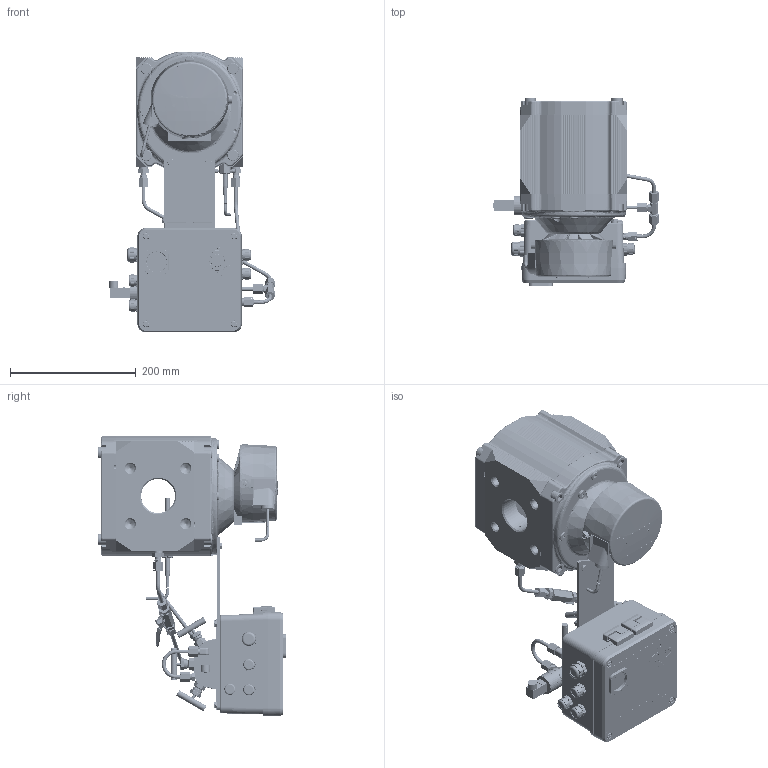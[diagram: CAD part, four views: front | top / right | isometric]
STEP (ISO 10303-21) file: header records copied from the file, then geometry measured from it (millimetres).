
FILE_DESCRIPTION(('STEP AP242'), '1');
FILE_NAME('ÑÃ-ÝÊÐ-Ð-100 ÐÂÃ-À c ÏÏÄ ïðàâûé', '', ('UNSPECIFIED'), ('UNSPECIFIED'), 'C3D Converter', 'C3D Toolkit', '');
FILE_SCHEMA(('AP242_MANAGED_MODEL_BASED_3D_ENGINEERING_MIM_LF { 1 0 10303 442 1 1 4 }'));
Length unit declared in the file: millimetre
Bounding box: 264.58 x 299 x 446.5 mm (x, y, z)
Volume: 4463445.7 mm3; surface area: 1059470.3 mm2
Topology: 116 solids, 116 shells, 6000 faces, 15315 edges, 9856 vertices
Faces by surface type: plane 1862, cylinder 1651, extrusion 1105, cone 773, bspline 343, torus 232, sphere 34
Full cylindrical faces by diameter (mm): 1.95 x3, 2 x41, 2.459 x4, 2.5 x12, 2.791 x2, 3 x2, 3.1 x1, 3.2 x14, 3.242 x7, 3.3 x4, 3.45 x3, 3.459 x2, 4 x29, 4.134 x1, 4.2 x6, 4.3 x2, 4.5 x1, 4.917 x15, 5 x28, 5.5 x4, 5.8 x4, 6 x68, 6.2 x12, 6.6 x4, 7 x11, 8 x6, 8.1 x1, 8.5 x1, 8.77 x2, 9 x7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
Entity records: 350399 total; most frequent: CARTESIAN_POINT 168716, ORIENTED_EDGE 28290, DIRECTION 23211, EDGE_CURVE 14145, VERTEX_POINT 9791, AXIS2_PLACEMENT_3D 8257, EDGE_LOOP 7706, VECTOR 6697
